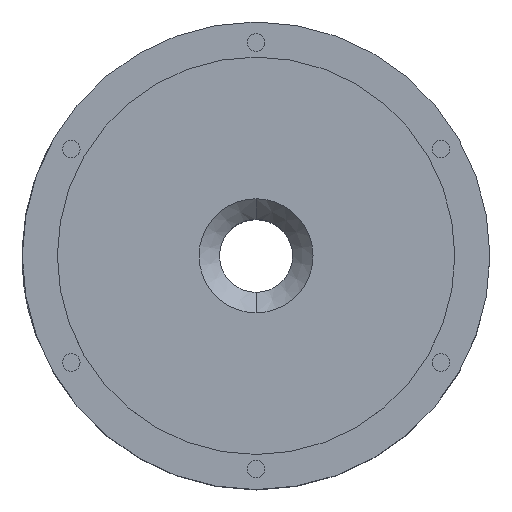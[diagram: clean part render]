
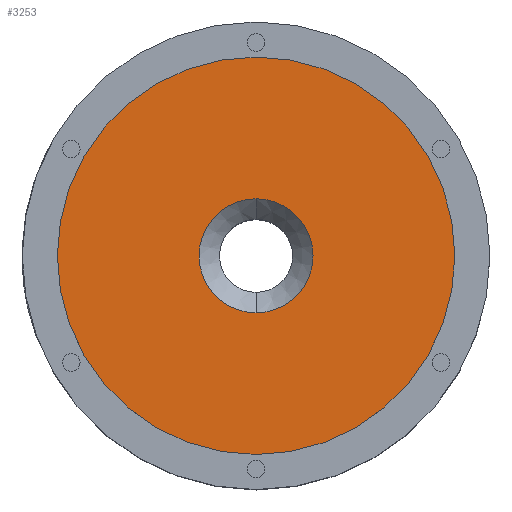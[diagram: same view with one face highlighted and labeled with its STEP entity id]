
A CAD part, top view. The second image highlights one B-rep face of the part: STEP entity #3253.
In plain terms, the highlighted planar face has unit normal (0, 0, 1).
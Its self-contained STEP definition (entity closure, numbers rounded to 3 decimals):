
#620 = ORIENTED_EDGE ( 'NONE', *, *, #4576, .F. ) ;
#2035 = CARTESIAN_POINT ( 'NONE',  ( 0., 68., 92.5 ) ) ;
#2180 = DIRECTION ( 'NONE',  ( 0., 1., 0. ) ) ;
#2181 = DIRECTION ( 'NONE',  ( 0., 0., -1. ) ) ;
#2182 = CARTESIAN_POINT ( 'NONE',  ( 0., 0., 92.5 ) ) ;
#2183 = AXIS2_PLACEMENT_3D ( 'NONE', #2182, #2181, #2180 ) ;
#2194 = CARTESIAN_POINT ( 'NONE',  ( 0., -68., 92.5 ) ) ;
#2195 = CIRCLE ( 'NONE', #2183, 68. ) ;
#2399 = CARTESIAN_POINT ( 'NONE',  ( 0., 0., 92.5 ) ) ;
#2440 = DIRECTION ( 'NONE',  ( 0., -1., 0. ) ) ;
#2442 = DIRECTION ( 'NONE',  ( 0., 0., -1. ) ) ;
#2444 = AXIS2_PLACEMENT_3D ( 'NONE', #2399, #2442, #2440 ) ;
#2449 = CIRCLE ( 'NONE', #2444, 19.5 ) ;
#3042 = EDGE_CURVE ( 'NONE', #3053, #3052, #5173, .T. ) ;
#3052 = VERTEX_POINT ( 'NONE', #5167 ) ;
#3053 = VERTEX_POINT ( 'NONE', #5165 ) ;
#3220 = EDGE_LOOP ( 'NONE', ( #620, #3224 ) ) ;
#3221 = ORIENTED_EDGE ( 'NONE', *, *, #3042, .T. ) ;
#3223 = EDGE_LOOP ( 'NONE', ( #3221, #5784 ) ) ;
#3224 = ORIENTED_EDGE ( 'NONE', *, *, #3225, .F. ) ;
#3225 = EDGE_CURVE ( 'NONE', #4578, #4506, #5533, .T. ) ;
#3253 = ADVANCED_FACE ( 'NONE', ( #5555, #5579 ), #5558, .T. ) ;
#4506 = VERTEX_POINT ( 'NONE', #2035 ) ;
#4576 = EDGE_CURVE ( 'NONE', #4506, #4578, #2195, .T. ) ;
#4578 = VERTEX_POINT ( 'NONE', #2194 ) ;
#5132 = AXIS2_PLACEMENT_3D ( 'NONE', #5170, #5169, #5168 ) ;
#5165 = CARTESIAN_POINT ( 'NONE',  ( 0., -19.5, 92.5 ) ) ;
#5167 = CARTESIAN_POINT ( 'NONE',  ( 0., 19.5, 92.5 ) ) ;
#5168 = DIRECTION ( 'NONE',  ( 0., -1., 0. ) ) ;
#5169 = DIRECTION ( 'NONE',  ( 0., 0., -1. ) ) ;
#5170 = CARTESIAN_POINT ( 'NONE',  ( 0., 0., 92.5 ) ) ;
#5173 = CIRCLE ( 'NONE', #5132, 19.5 ) ;
#5526 = DIRECTION ( 'NONE',  ( 0., 1., 0. ) ) ;
#5527 = DIRECTION ( 'NONE',  ( 0., 0., -1. ) ) ;
#5528 = CARTESIAN_POINT ( 'NONE',  ( 0., 0., 92.5 ) ) ;
#5532 = AXIS2_PLACEMENT_3D ( 'NONE', #5528, #5527, #5526 ) ;
#5533 = CIRCLE ( 'NONE', #5532, 68. ) ;
#5550 = CARTESIAN_POINT ( 'NONE',  ( 0., -12.5, 92.5 ) ) ;
#5555 = FACE_BOUND ( 'NONE', #3223, .T. ) ;
#5558 = PLANE ( 'NONE',  #5577 ) ;
#5573 = DIRECTION ( 'NONE',  ( 0., -1., 0. ) ) ;
#5577 = AXIS2_PLACEMENT_3D ( 'NONE', #5550, #5598, #5573 ) ;
#5579 = FACE_OUTER_BOUND ( 'NONE', #3220, .T. ) ;
#5598 = DIRECTION ( 'NONE',  ( 0., 0., 1. ) ) ;
#5784 = ORIENTED_EDGE ( 'NONE', *, *, #5788, .T. ) ;
#5788 = EDGE_CURVE ( 'NONE', #3052, #3053, #2449, .T. ) ;
